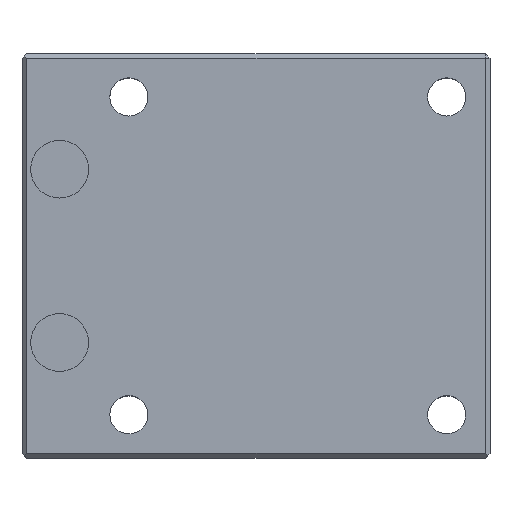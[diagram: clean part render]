
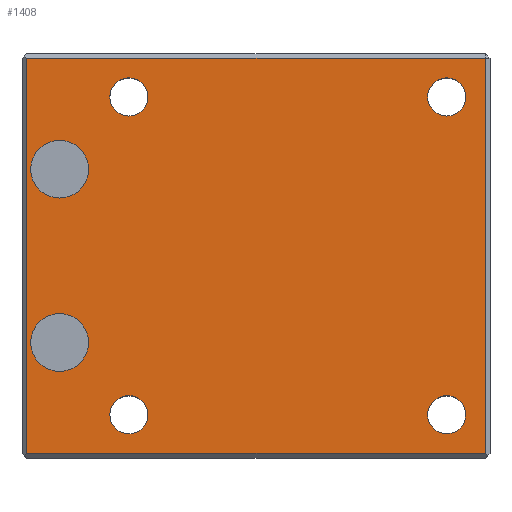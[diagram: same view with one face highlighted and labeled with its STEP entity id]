
A CAD part, top view. The second image highlights one B-rep face of the part: STEP entity #1408.
In plain terms, the highlighted planar face has unit normal (0, 0, 1).
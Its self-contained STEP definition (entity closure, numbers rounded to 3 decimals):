
#3 = DIRECTION ( 'NONE',  ( 0., 0., 1. ) ) ;
#25 = CARTESIAN_POINT ( 'NONE',  ( -46., 34.2, 98. ) ) ;
#26 = VERTEX_POINT ( 'NONE', #1324 ) ;
#33 = VERTEX_POINT ( 'NONE', #1808 ) ;
#42 = AXIS2_PLACEMENT_3D ( 'NONE', #1528, #1208, #1391 ) ;
#63 = AXIS2_PLACEMENT_3D ( 'NONE', #289, #2066, #2057 ) ;
#66 = CARTESIAN_POINT ( 'NONE',  ( 34.2, -34.2, 98. ) ) ;
#81 = ORIENTED_EDGE ( 'NONE', *, *, #259, .F. ) ;
#82 = CARTESIAN_POINT ( 'NONE',  ( -44.5, 15., 98. ) ) ;
#91 = CARTESIAN_POINT ( 'NONE',  ( -45.2, 34.2, 98. ) ) ;
#93 = ORIENTED_EDGE ( 'NONE', *, *, #350, .F. ) ;
#138 = CARTESIAN_POINT ( 'NONE',  ( -27.5, 27.5, 98. ) ) ;
#169 = FACE_BOUND ( 'NONE', #989, .T. ) ;
#170 = DIRECTION ( 'NONE',  ( 0., 0., 1. ) ) ;
#175 = DIRECTION ( 'NONE',  ( 1., 0., 0. ) ) ;
#201 = LINE ( 'NONE', #1626, #437 ) ;
#205 = ORIENTED_EDGE ( 'NONE', *, *, #603, .F. ) ;
#210 = PLANE ( 'NONE',  #726 ) ;
#248 = EDGE_CURVE ( 'NONE', #1902, #842, #1358, .T. ) ;
#249 = DIRECTION ( 'NONE',  ( 1., 0., 0. ) ) ;
#259 = EDGE_CURVE ( 'NONE', #1416, #970, #763, .T. ) ;
#267 = EDGE_CURVE ( 'NONE', #487, #1902, #849, .T. ) ;
#268 = FACE_BOUND ( 'NONE', #599, .T. ) ;
#289 = CARTESIAN_POINT ( 'NONE',  ( -39.5, -15., 98. ) ) ;
#331 = CIRCLE ( 'NONE', #1517, 3.3 ) ;
#350 = EDGE_CURVE ( 'NONE', #1450, #1819, #1397, .T. ) ;
#361 = VERTEX_POINT ( 'NONE', #82 ) ;
#381 = EDGE_CURVE ( 'NONE', #1819, #1450, #1938, .T. ) ;
#390 = ORIENTED_EDGE ( 'NONE', *, *, #1665, .F. ) ;
#434 = DIRECTION ( 'NONE',  ( 1., 0., 0. ) ) ;
#437 = VECTOR ( 'NONE', #1301, 1000. ) ;
#480 = FACE_BOUND ( 'NONE', #735, .T. ) ;
#482 = DIRECTION ( 'NONE',  ( 1., 0., 0. ) ) ;
#487 = VERTEX_POINT ( 'NONE', #66 ) ;
#498 = CIRCLE ( 'NONE', #63, 5. ) ;
#507 = DIRECTION ( 'NONE',  ( -1., 0., 0. ) ) ;
#511 = FACE_BOUND ( 'NONE', #1502, .T. ) ;
#516 = EDGE_LOOP ( 'NONE', ( #608, #607 ) ) ;
#574 = ORIENTED_EDGE ( 'NONE', *, *, #1761, .F. ) ;
#590 = ORIENTED_EDGE ( 'NONE', *, *, #1900, .F. ) ;
#599 = EDGE_LOOP ( 'NONE', ( #828, #1112 ) ) ;
#602 = AXIS2_PLACEMENT_3D ( 'NONE', #2000, #892, #1520 ) ;
#603 = EDGE_CURVE ( 'NONE', #970, #1416, #1489, .T. ) ;
#605 = AXIS2_PLACEMENT_3D ( 'NONE', #1650, #170, #1609 ) ;
#607 = ORIENTED_EDGE ( 'NONE', *, *, #1737, .F. ) ;
#608 = ORIENTED_EDGE ( 'NONE', *, *, #993, .F. ) ;
#679 = VECTOR ( 'NONE', #1680, 1000. ) ;
#692 = VERTEX_POINT ( 'NONE', #2076 ) ;
#706 = AXIS2_PLACEMENT_3D ( 'NONE', #1881, #1559, #434 ) ;
#715 = EDGE_LOOP ( 'NONE', ( #998, #590 ) ) ;
#726 = AXIS2_PLACEMENT_3D ( 'NONE', #1966, #1625, #175 ) ;
#735 = EDGE_LOOP ( 'NONE', ( #390, #574 ) ) ;
#739 = DIRECTION ( 'NONE',  ( 0., 0., 1. ) ) ;
#753 = AXIS2_PLACEMENT_3D ( 'NONE', #756, #1082, #1379 ) ;
#756 = CARTESIAN_POINT ( 'NONE',  ( 27.5, -27.5, 98. ) ) ;
#763 = CIRCLE ( 'NONE', #1024, 3.3 ) ;
#788 = EDGE_CURVE ( 'NONE', #1327, #487, #873, .T. ) ;
#805 = CIRCLE ( 'NONE', #602, 3.3 ) ;
#828 = ORIENTED_EDGE ( 'NONE', *, *, #1100, .F. ) ;
#842 = VERTEX_POINT ( 'NONE', #91 ) ;
#849 = LINE ( 'NONE', #1998, #679 ) ;
#873 = LINE ( 'NONE', #2038, #1683 ) ;
#892 = DIRECTION ( 'NONE',  ( 0., 0., 1. ) ) ;
#944 = DIRECTION ( 'NONE',  ( 1., 0., 0. ) ) ;
#964 = ORIENTED_EDGE ( 'NONE', *, *, #788, .T. ) ;
#970 = VERTEX_POINT ( 'NONE', #1274 ) ;
#971 = FACE_BOUND ( 'NONE', #516, .T. ) ;
#983 = CARTESIAN_POINT ( 'NONE',  ( 34.2, 34.2, 98. ) ) ;
#989 = EDGE_LOOP ( 'NONE', ( #81, #205 ) ) ;
#993 = EDGE_CURVE ( 'NONE', #1560, #2065, #1694, .T. ) ;
#998 = ORIENTED_EDGE ( 'NONE', *, *, #1577, .F. ) ;
#1013 = DIRECTION ( 'NONE',  ( 1., 0., 0. ) ) ;
#1017 = EDGE_CURVE ( 'NONE', #2014, #26, #1256, .T. ) ;
#1023 = CARTESIAN_POINT ( 'NONE',  ( -27.5, -27.5, 98. ) ) ;
#1024 = AXIS2_PLACEMENT_3D ( 'NONE', #1023, #1485, #1013 ) ;
#1033 = EDGE_CURVE ( 'NONE', #842, #1327, #201, .T. ) ;
#1041 = ORIENTED_EDGE ( 'NONE', *, *, #248, .T. ) ;
#1063 = CIRCLE ( 'NONE', #1164, 3.3 ) ;
#1071 = VECTOR ( 'NONE', #507, 1000. ) ;
#1082 = DIRECTION ( 'NONE',  ( 0., 0., 1. ) ) ;
#1085 = AXIS2_PLACEMENT_3D ( 'NONE', #2075, #1919, #1105 ) ;
#1100 = EDGE_CURVE ( 'NONE', #26, #2014, #331, .T. ) ;
#1105 = DIRECTION ( 'NONE',  ( 1., 0., 0. ) ) ;
#1112 = ORIENTED_EDGE ( 'NONE', *, *, #1017, .F. ) ;
#1139 = CARTESIAN_POINT ( 'NONE',  ( 27.5, 27.5, 98. ) ) ;
#1152 = ORIENTED_EDGE ( 'NONE', *, *, #1033, .T. ) ;
#1164 = AXIS2_PLACEMENT_3D ( 'NONE', #138, #1952, #1593 ) ;
#1180 = EDGE_LOOP ( 'NONE', ( #1152, #964, #1756, #1041 ) ) ;
#1193 = CARTESIAN_POINT ( 'NONE',  ( 24.2, 27.5, 98. ) ) ;
#1208 = DIRECTION ( 'NONE',  ( 0., 0., 1. ) ) ;
#1252 = CIRCLE ( 'NONE', #1085, 5. ) ;
#1256 = CIRCLE ( 'NONE', #605, 3.3 ) ;
#1274 = CARTESIAN_POINT ( 'NONE',  ( -30.8, -27.5, 98. ) ) ;
#1278 = ORIENTED_EDGE ( 'NONE', *, *, #381, .F. ) ;
#1301 = DIRECTION ( 'NONE',  ( 0., -1., 0. ) ) ;
#1324 = CARTESIAN_POINT ( 'NONE',  ( 30.8, 27.5, 98. ) ) ;
#1327 = VERTEX_POINT ( 'NONE', #1438 ) ;
#1341 = CARTESIAN_POINT ( 'NONE',  ( -34.5, -15., 98. ) ) ;
#1346 = DIRECTION ( 'NONE',  ( 1., 0., 0. ) ) ;
#1358 = LINE ( 'NONE', #25, #1071 ) ;
#1375 = CARTESIAN_POINT ( 'NONE',  ( -44.5, -15., 98. ) ) ;
#1379 = DIRECTION ( 'NONE',  ( 1., 0., 0. ) ) ;
#1391 = DIRECTION ( 'NONE',  ( 1., 0., 0. ) ) ;
#1392 = AXIS2_PLACEMENT_3D ( 'NONE', #1579, #1897, #944 ) ;
#1397 = CIRCLE ( 'NONE', #753, 3.3 ) ;
#1408 = ADVANCED_FACE ( 'NONE', ( #480, #971, #169, #268, #511, #1982, #1507 ), #210, .T. ) ;
#1416 = VERTEX_POINT ( 'NONE', #1796 ) ;
#1438 = CARTESIAN_POINT ( 'NONE',  ( -45.2, -34.2, 98. ) ) ;
#1450 = VERTEX_POINT ( 'NONE', #1956 ) ;
#1485 = DIRECTION ( 'NONE',  ( 0., 0., 1. ) ) ;
#1489 = CIRCLE ( 'NONE', #1392, 3.3 ) ;
#1502 = EDGE_LOOP ( 'NONE', ( #93, #1278 ) ) ;
#1507 = FACE_OUTER_BOUND ( 'NONE', #1180, .T. ) ;
#1517 = AXIS2_PLACEMENT_3D ( 'NONE', #1139, #3, #482 ) ;
#1520 = DIRECTION ( 'NONE',  ( 1., 0., 0. ) ) ;
#1528 = CARTESIAN_POINT ( 'NONE',  ( 27.5, -27.5, 98. ) ) ;
#1559 = DIRECTION ( 'NONE',  ( 0., 0., 1. ) ) ;
#1560 = VERTEX_POINT ( 'NONE', #1341 ) ;
#1577 = EDGE_CURVE ( 'NONE', #1947, #33, #805, .T. ) ;
#1579 = CARTESIAN_POINT ( 'NONE',  ( -27.5, -27.5, 98. ) ) ;
#1593 = DIRECTION ( 'NONE',  ( 1., 0., 0. ) ) ;
#1609 = DIRECTION ( 'NONE',  ( 1., 0., 0. ) ) ;
#1625 = DIRECTION ( 'NONE',  ( 0., 0., 1. ) ) ;
#1626 = CARTESIAN_POINT ( 'NONE',  ( -45.2, -34.2, 98. ) ) ;
#1650 = CARTESIAN_POINT ( 'NONE',  ( 27.5, 27.5, 98. ) ) ;
#1665 = EDGE_CURVE ( 'NONE', #692, #361, #1926, .T. ) ;
#1680 = DIRECTION ( 'NONE',  ( 0., 1., 0. ) ) ;
#1683 = VECTOR ( 'NONE', #1346, 1000. ) ;
#1694 = CIRCLE ( 'NONE', #706, 5. ) ;
#1707 = CARTESIAN_POINT ( 'NONE',  ( 24.2, -27.5, 98. ) ) ;
#1737 = EDGE_CURVE ( 'NONE', #2065, #1560, #498, .T. ) ;
#1756 = ORIENTED_EDGE ( 'NONE', *, *, #267, .T. ) ;
#1761 = EDGE_CURVE ( 'NONE', #361, #692, #1252, .T. ) ;
#1796 = CARTESIAN_POINT ( 'NONE',  ( -24.2, -27.5, 98. ) ) ;
#1808 = CARTESIAN_POINT ( 'NONE',  ( -30.8, 27.5, 98. ) ) ;
#1819 = VERTEX_POINT ( 'NONE', #1707 ) ;
#1839 = CARTESIAN_POINT ( 'NONE',  ( -39.5, 15., 98. ) ) ;
#1856 = CARTESIAN_POINT ( 'NONE',  ( -24.2, 27.5, 98. ) ) ;
#1881 = CARTESIAN_POINT ( 'NONE',  ( -39.5, -15., 98. ) ) ;
#1897 = DIRECTION ( 'NONE',  ( 0., 0., 1. ) ) ;
#1900 = EDGE_CURVE ( 'NONE', #33, #1947, #1063, .T. ) ;
#1902 = VERTEX_POINT ( 'NONE', #983 ) ;
#1919 = DIRECTION ( 'NONE',  ( 0., 0., 1. ) ) ;
#1926 = CIRCLE ( 'NONE', #1990, 5. ) ;
#1938 = CIRCLE ( 'NONE', #42, 3.3 ) ;
#1947 = VERTEX_POINT ( 'NONE', #1856 ) ;
#1952 = DIRECTION ( 'NONE',  ( 0., 0., 1. ) ) ;
#1956 = CARTESIAN_POINT ( 'NONE',  ( 30.8, -27.5, 98. ) ) ;
#1966 = CARTESIAN_POINT ( 'NONE',  ( 0., 0., 98. ) ) ;
#1982 = FACE_BOUND ( 'NONE', #715, .T. ) ;
#1990 = AXIS2_PLACEMENT_3D ( 'NONE', #1839, #739, #249 ) ;
#1998 = CARTESIAN_POINT ( 'NONE',  ( 34.2, 35., 98. ) ) ;
#2000 = CARTESIAN_POINT ( 'NONE',  ( -27.5, 27.5, 98. ) ) ;
#2014 = VERTEX_POINT ( 'NONE', #1193 ) ;
#2038 = CARTESIAN_POINT ( 'NONE',  ( 34.2, -34.2, 98. ) ) ;
#2057 = DIRECTION ( 'NONE',  ( 1., 0., 0. ) ) ;
#2065 = VERTEX_POINT ( 'NONE', #1375 ) ;
#2066 = DIRECTION ( 'NONE',  ( 0., 0., 1. ) ) ;
#2075 = CARTESIAN_POINT ( 'NONE',  ( -39.5, 15., 98. ) ) ;
#2076 = CARTESIAN_POINT ( 'NONE',  ( -34.5, 15., 98. ) ) ;
